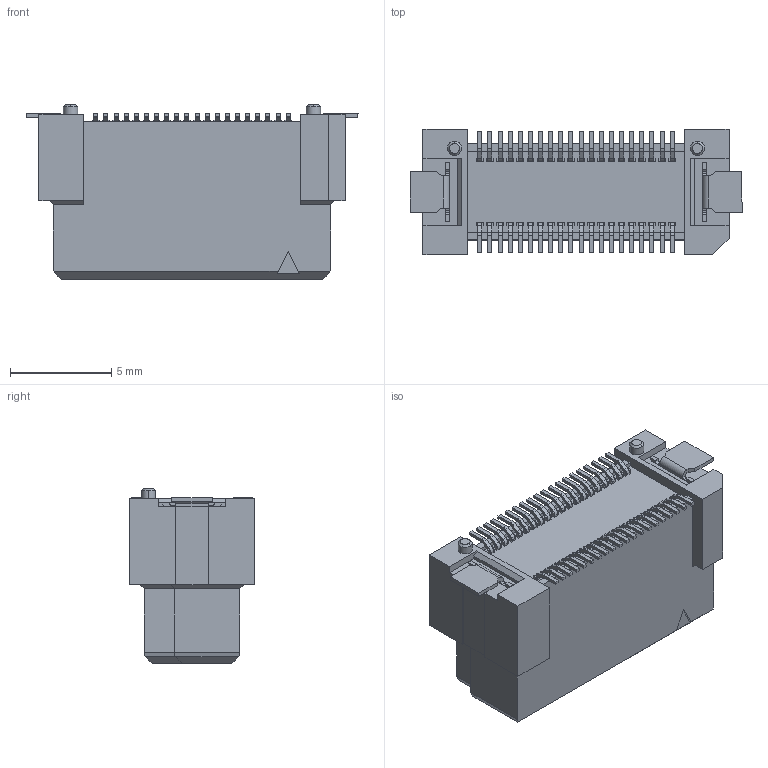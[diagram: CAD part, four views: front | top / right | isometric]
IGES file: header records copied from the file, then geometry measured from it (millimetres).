
Start section: Elysium IGES Interface
Global section: file name: 80HC:\Users\1502\Desktop\DT_webリニューアル\プラグ\ボス有\P3D070_DT11-040S-10-T.igs; native system: Creo Elements/Direct Modeling 19.0F  14-Feb-2017; preprocessor: Creo Element/Direct IGES_3D V2.2; author: Unknown; organization: Unknown; date: 20170811.102926; units: millimetre
Bounding box: 16.4 x 6.2 x 8.63 mm (x, y, z)
Volume: 495.1 mm3; surface area: 831.2 mm2
Topology: 1 solids, 1 shells, 1501 faces, 4062 edges, 2648 vertices
Faces by surface type: bspline 1501
